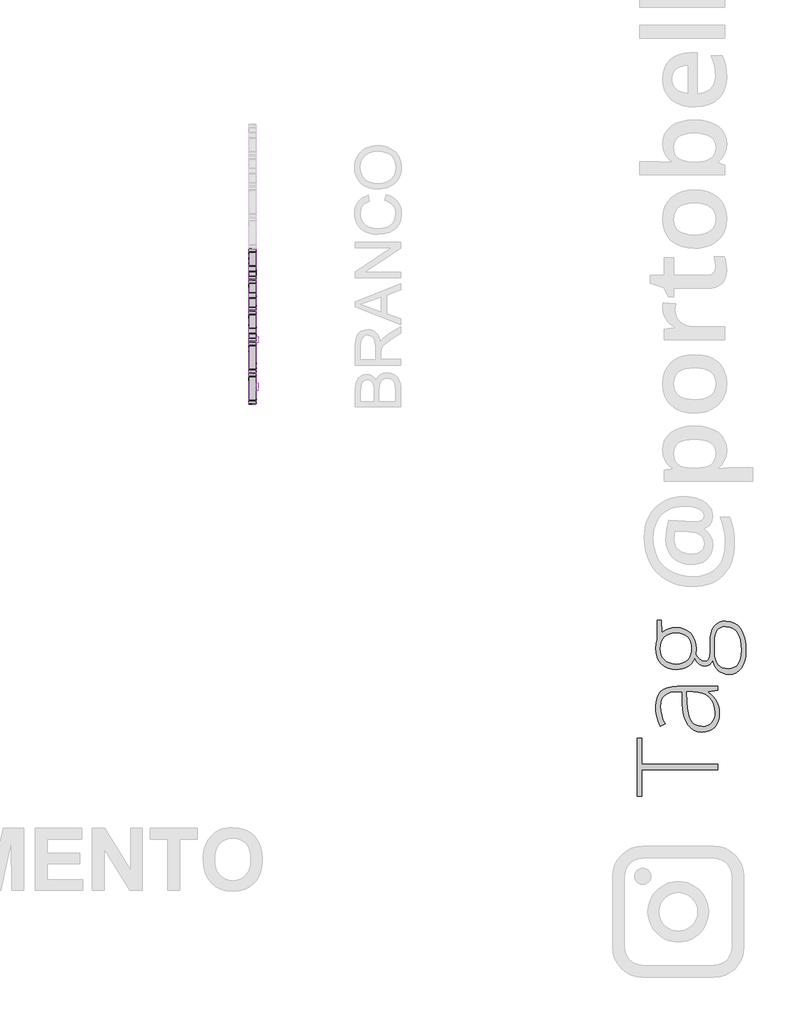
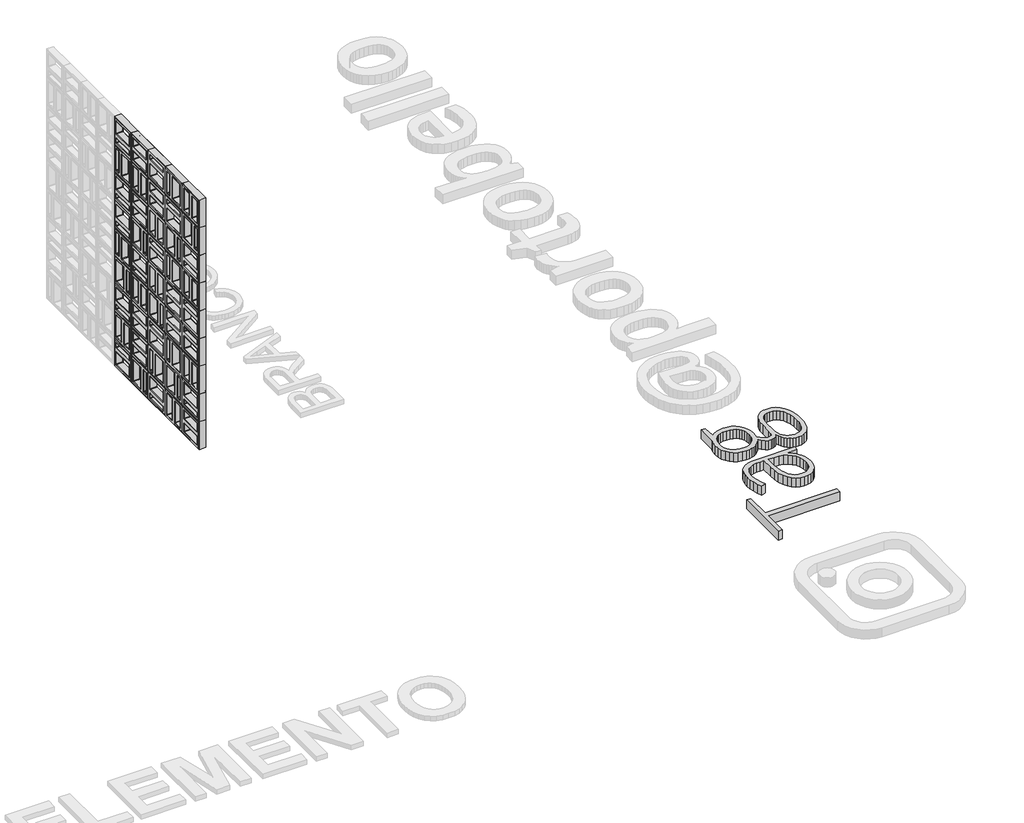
# One storey, part 5 of 8: 48 proxies.
"""IFC4 building model written with IfcOpenShell, lengths in millimetres."""

from ifc_helpers import new_model, si_unit, frame, origin, origin_with_axes, place, context, project, spatial, polyline, outline, extrude, transform, mapped, element, save
from components import plate_08ec880d, generic_models_842a660e, generic_models_726e0611, generic_models_d4af8894, generic_models_55a6a26f, sim_branco_8a5b93f5, sim_branco_d7bac734

model = new_model("IFC4")

# Units and contexts
model_context = context("Model", 3, world=origin())
ifc_project = project(units=[si_unit("LENGTHUNIT", "METRE", prefix="MILLI")], contexts=[model_context])

# Site, building, storey
site = spatial("IfcSite", under=ifc_project)
building = spatial("IfcBuilding", under=site)
storey = spatial("IfcBuildingStorey", under=building, Name="PORTOBELLO - SHOWROOM", Elevation=0.0)

# Proxies
placement = place(None, origin())
plate_shape = plate_08ec880d(model_context)
element("IfcBuildingElementProxy", 1, Name="PORTOBELLO - ELEMENTO ASSIM BRANCO 30X30 (COBOGO) : ASSIM BRANCO", ObjectType="PORTOBELLO - ELEMENTO ASSIM BRANCO 30X30 (COBOGO) : ASSIM BRANCO", at=placement, inside=storey, context=model_context, shape_type="MappedRepresentation", body=[
    mapped(plate_shape, transform((152562.9354422, 4094.9733076, 308.0), x_axis=(0.0, 1.0, 0.0), y_axis=(-1.0, 0.0, 0.0), z_axis=(0.0, 0.0, 1.0))),
])
element("IfcBuildingElementProxy", 2, Name="PORTOBELLO - ELEMENTO ASSIM BRANCO 30X30 (COBOGO) : ASSIM BRANCO", ObjectType="PORTOBELLO - ELEMENTO ASSIM BRANCO 30X30 (COBOGO) : ASSIM BRANCO", at=placement, inside=storey, context=model_context, shape_type="MappedRepresentation", body=[
    mapped(plate_shape, transform((152562.9354422, 3786.9733076, 616.0), x_axis=(0.0, 1.0, 0.0), y_axis=(-1.0, 0.0, 0.0), z_axis=(0.0, 0.0, 1.0))),
])
element("IfcBuildingElementProxy", 3, Name="PORTOBELLO - ELEMENTO ASSIM BRANCO 30X30 (COBOGO) : ASSIM BRANCO", ObjectType="PORTOBELLO - ELEMENTO ASSIM BRANCO 30X30 (COBOGO) : ASSIM BRANCO", at=placement, inside=storey, context=model_context, shape_type="MappedRepresentation", body=[
    mapped(plate_shape, transform((152562.9354422, 4710.9733076, 1232.0), x_axis=(0.0, 1.0, 0.0), y_axis=(-1.0, 0.0, 0.0), z_axis=(0.0, 0.0, 1.0))),
])
element("IfcBuildingElementProxy", 4, Name="PORTOBELLO - ELEMENTO ASSIM BRANCO 30X30 (COBOGO) : ASSIM BRANCO", ObjectType="PORTOBELLO - ELEMENTO ASSIM BRANCO 30X30 (COBOGO) : ASSIM BRANCO", at=placement, inside=storey, context=model_context, shape_type="MappedRepresentation", body=[
    mapped(plate_shape, transform((152562.9354422, 3786.9733076, 1540.0), x_axis=(0.0, 1.0, 0.0), y_axis=(-1.0, 0.0, 0.0), z_axis=(0.0, 0.0, 1.0))),
])
element("IfcBuildingElementProxy", 5, Name="PORTOBELLO - ELEMENTO ASSIM BRANCO 30X30 (COBOGO) : ASSIM BRANCO", ObjectType="PORTOBELLO - ELEMENTO ASSIM BRANCO 30X30 (COBOGO) : ASSIM BRANCO", at=placement, inside=storey, context=model_context, shape_type="MappedRepresentation", body=[
    mapped(plate_shape, transform((152562.9354422, 4710.9733076, 2156.0), x_axis=(0.0, 1.0, 0.0), y_axis=(-1.0, 0.0, 0.0), z_axis=(0.0, 0.0, 1.0))),
])
element("IfcBuildingElementProxy", 6, Name="PORTOBELLO - ELEMENTO ASSIM BRANCO 30X30 (COBOGO) : ASSIM BRANCO", ObjectType="PORTOBELLO - ELEMENTO ASSIM BRANCO 30X30 (COBOGO) : ASSIM BRANCO", at=placement, inside=storey, context=model_context, shape_type="MappedRepresentation", body=[
    mapped(plate_shape, transform((152562.9354422, 3786.9733076, 2464.0), x_axis=(0.0, 1.0, 0.0), y_axis=(-1.0, 0.0, 0.0), z_axis=(0.0, 0.0, 1.0))),
])
generic_models_shape = generic_models_842a660e(model_context)
element("IfcBuildingElementProxy", 7, Name="PORTOBELLO - ELEMENTO ASSIM BRANCO 30X30 (COBOGO) : ASSIM BRANCO", ObjectType="PORTOBELLO - ELEMENTO ASSIM BRANCO 30X30 (COBOGO) : ASSIM BRANCO", at=placement, inside=storey, context=model_context, shape_type="MappedRepresentation", body=[
    mapped(generic_models_shape, transform((152562.9354422, 3786.9733076, 308.0), x_axis=(0.0, -1.0, 0.0), y_axis=(1.0, 0.0, 0.0), z_axis=(0.0, 0.0, 1.0))),
])
generic_models_2_shape = generic_models_726e0611(model_context)
element("IfcBuildingElementProxy", 8, Name="PORTOBELLO - ELEMENTO ASSIM BRANCO 30X30 (COBOGO) : ASSIM BRANCO", ObjectType="PORTOBELLO - ELEMENTO ASSIM BRANCO 30X30 (COBOGO) : ASSIM BRANCO", at=placement, inside=storey, context=model_context, shape_type="MappedRepresentation", body=[
    mapped(generic_models_2_shape, transform((152562.9354422, 4710.9733076, 0.0), x_axis=(0.0, 1.0, 0.0), y_axis=(-1.0, 0.0, 0.0), z_axis=(0.0, 0.0, 1.0))),
])
element("IfcBuildingElementProxy", 9, Name="PORTOBELLO - ELEMENTO ASSIM BRANCO 30X30 (COBOGO) : ASSIM BRANCO", ObjectType="PORTOBELLO - ELEMENTO ASSIM BRANCO 30X30 (COBOGO) : ASSIM BRANCO", at=placement, inside=storey, context=model_context, shape_type="MappedRepresentation", body=[
    mapped(generic_models_2_shape, transform((152562.9354422, 4094.9733076, 616.0), x_axis=(0.0, 1.0, 0.0), y_axis=(-1.0, 0.0, 0.0), z_axis=(0.0, 0.0, 1.0))),
])
element("IfcBuildingElementProxy", 10, Name="PORTOBELLO - ELEMENTO ASSIM BRANCO 30X30 (COBOGO) : ASSIM BRANCO", ObjectType="PORTOBELLO - ELEMENTO ASSIM BRANCO 30X30 (COBOGO) : ASSIM BRANCO", at=placement, inside=storey, context=model_context, shape_type="MappedRepresentation", body=[
    mapped(generic_models_2_shape, transform((152562.9354422, 3478.9733076, 924.0), x_axis=(0.0, 1.0, 0.0), y_axis=(-1.0, 0.0, 0.0), z_axis=(0.0, 0.0, 1.0))),
])
element("IfcBuildingElementProxy", 11, Name="PORTOBELLO - ELEMENTO ASSIM BRANCO 30X30 (COBOGO) : ASSIM BRANCO", ObjectType="PORTOBELLO - ELEMENTO ASSIM BRANCO 30X30 (COBOGO) : ASSIM BRANCO", at=placement, inside=storey, context=model_context, shape_type="MappedRepresentation", body=[
    mapped(generic_models_2_shape, transform((152562.9354422, 3478.9733076, 1232.0), x_axis=(0.0, 1.0, 0.0), y_axis=(-1.0, 0.0, 0.0), z_axis=(0.0, 0.0, 1.0))),
])
element("IfcBuildingElementProxy", 12, Name="PORTOBELLO - ELEMENTO ASSIM BRANCO 30X30 (COBOGO) : ASSIM BRANCO", ObjectType="PORTOBELLO - ELEMENTO ASSIM BRANCO 30X30 (COBOGO) : ASSIM BRANCO", at=placement, inside=storey, context=model_context, shape_type="MappedRepresentation", body=[
    mapped(generic_models_2_shape, transform((152562.9354422, 4094.9733076, 1540.0), x_axis=(0.0, 1.0, 0.0), y_axis=(-1.0, 0.0, 0.0), z_axis=(0.0, 0.0, 1.0))),
])
element("IfcBuildingElementProxy", 13, Name="PORTOBELLO - ELEMENTO ASSIM BRANCO 30X30 (COBOGO) : ASSIM BRANCO", ObjectType="PORTOBELLO - ELEMENTO ASSIM BRANCO 30X30 (COBOGO) : ASSIM BRANCO", at=placement, inside=storey, context=model_context, shape_type="MappedRepresentation", body=[
    mapped(generic_models_2_shape, transform((152562.9354422, 3786.9733076, 2156.0), x_axis=(0.0, 1.0, 0.0), y_axis=(-1.0, 0.0, 0.0), z_axis=(0.0, 0.0, 1.0))),
])
element("IfcBuildingElementProxy", 14, Name="PORTOBELLO - ELEMENTO ASSIM BRANCO 30X30 (COBOGO) : ASSIM BRANCO", ObjectType="PORTOBELLO - ELEMENTO ASSIM BRANCO 30X30 (COBOGO) : ASSIM BRANCO", at=placement, inside=storey, context=model_context, shape_type="MappedRepresentation", body=[
    mapped(generic_models_2_shape, transform((152562.9354422, 4094.9733076, 2464.0), x_axis=(0.0, 1.0, 0.0), y_axis=(-1.0, 0.0, 0.0), z_axis=(0.0, 0.0, 1.0))),
])
generic_models_3_shape = generic_models_d4af8894(model_context)
element("IfcBuildingElementProxy", 15, Name="PORTOBELLO - ELEMENTO ASSIM BRANCO 30X30 (COBOGO) : ASSIM BRANCO", ObjectType="PORTOBELLO - ELEMENTO ASSIM BRANCO 30X30 (COBOGO) : ASSIM BRANCO", at=placement, inside=storey, context=model_context, shape_type="MappedRepresentation", body=[
    mapped(generic_models_3_shape, transform((152562.9354422, 4094.9733076, 0.0), x_axis=(0.0, 1.0, 0.0), y_axis=(-1.0, 0.0, 0.0), z_axis=(0.0, 0.0, 1.0))),
])
element("IfcBuildingElementProxy", 16, Name="PORTOBELLO - ELEMENTO ASSIM BRANCO 30X30 (COBOGO) : ASSIM BRANCO", ObjectType="PORTOBELLO - ELEMENTO ASSIM BRANCO 30X30 (COBOGO) : ASSIM BRANCO", at=placement, inside=storey, context=model_context, shape_type="MappedRepresentation", body=[
    mapped(generic_models_3_shape, transform((152562.9354422, 3478.9733076, 308.0), x_axis=(0.0, 1.0, 0.0), y_axis=(-1.0, 0.0, 0.0), z_axis=(0.0, 0.0, 1.0))),
])
element("IfcBuildingElementProxy", 17, Name="PORTOBELLO - ELEMENTO ASSIM BRANCO 30X30 (COBOGO) : ASSIM BRANCO", ObjectType="PORTOBELLO - ELEMENTO ASSIM BRANCO 30X30 (COBOGO) : ASSIM BRANCO", at=placement, inside=storey, context=model_context, shape_type="MappedRepresentation", body=[
    mapped(generic_models_3_shape, transform((152562.9354422, 4710.9733076, 616.0), x_axis=(0.0, 1.0, 0.0), y_axis=(-1.0, 0.0, 0.0), z_axis=(0.0, 0.0, 1.0))),
])
element("IfcBuildingElementProxy", 18, Name="PORTOBELLO - ELEMENTO ASSIM BRANCO 30X30 (COBOGO) : ASSIM BRANCO", ObjectType="PORTOBELLO - ELEMENTO ASSIM BRANCO 30X30 (COBOGO) : ASSIM BRANCO", at=placement, inside=storey, context=model_context, shape_type="MappedRepresentation", body=[
    mapped(generic_models_3_shape, transform((152562.9354422, 4402.9733076, 1232.0), x_axis=(0.0, 1.0, 0.0), y_axis=(-1.0, 0.0, 0.0), z_axis=(0.0, 0.0, 1.0))),
])
element("IfcBuildingElementProxy", 19, Name="PORTOBELLO - ELEMENTO ASSIM BRANCO 30X30 (COBOGO) : ASSIM BRANCO", ObjectType="PORTOBELLO - ELEMENTO ASSIM BRANCO 30X30 (COBOGO) : ASSIM BRANCO", at=placement, inside=storey, context=model_context, shape_type="MappedRepresentation", body=[
    mapped(generic_models_3_shape, transform((152562.9354422, 4710.9733076, 1540.0), x_axis=(0.0, 1.0, 0.0), y_axis=(-1.0, 0.0, 0.0), z_axis=(0.0, 0.0, 1.0))),
])
element("IfcBuildingElementProxy", 20, Name="PORTOBELLO - ELEMENTO ASSIM BRANCO 30X30 (COBOGO) : ASSIM BRANCO", ObjectType="PORTOBELLO - ELEMENTO ASSIM BRANCO 30X30 (COBOGO) : ASSIM BRANCO", at=placement, inside=storey, context=model_context, shape_type="MappedRepresentation", body=[
    mapped(generic_models_3_shape, transform((152562.9354422, 3478.9733076, 1848.0), x_axis=(0.0, 1.0, 0.0), y_axis=(-1.0, 0.0, 0.0), z_axis=(0.0, 0.0, 1.0))),
])
element("IfcBuildingElementProxy", 21, Name="PORTOBELLO - ELEMENTO ASSIM BRANCO 30X30 (COBOGO) : ASSIM BRANCO", ObjectType="PORTOBELLO - ELEMENTO ASSIM BRANCO 30X30 (COBOGO) : ASSIM BRANCO", at=placement, inside=storey, context=model_context, shape_type="MappedRepresentation", body=[
    mapped(generic_models_3_shape, transform((152562.9354422, 4710.9733076, 1848.0), x_axis=(0.0, 1.0, 0.0), y_axis=(-1.0, 0.0, 0.0), z_axis=(0.0, 0.0, 1.0))),
])
element("IfcBuildingElementProxy", 22, Name="PORTOBELLO - ELEMENTO ASSIM BRANCO 30X30 (COBOGO) : ASSIM BRANCO", ObjectType="PORTOBELLO - ELEMENTO ASSIM BRANCO 30X30 (COBOGO) : ASSIM BRANCO", at=placement, inside=storey, context=model_context, shape_type="MappedRepresentation", body=[
    mapped(generic_models_3_shape, transform((152562.9354422, 4710.9733076, 2464.0), x_axis=(0.0, 1.0, 0.0), y_axis=(-1.0, 0.0, 0.0), z_axis=(0.0, 0.0, 1.0))),
])
generic_models_4_shape = generic_models_55a6a26f(model_context)
element("IfcBuildingElementProxy", 23, Name="PORTOBELLO - ELEMENTO ASSIM BRANCO 30X30 (COBOGO) : ASSIM BRANCO", ObjectType="PORTOBELLO - ELEMENTO ASSIM BRANCO 30X30 (COBOGO) : ASSIM BRANCO", at=placement, inside=storey, context=model_context, shape_type="MappedRepresentation", body=[
    mapped(generic_models_4_shape, transform((152562.9354422, 4402.9733076, 0.0), x_axis=(0.0, 1.0, 0.0), y_axis=(-1.0, 0.0, 0.0), z_axis=(0.0, 0.0, 1.0))),
])
element("IfcBuildingElementProxy", 24, Name="PORTOBELLO - ELEMENTO ASSIM BRANCO 30X30 (COBOGO) : ASSIM BRANCO", ObjectType="PORTOBELLO - ELEMENTO ASSIM BRANCO 30X30 (COBOGO) : ASSIM BRANCO", at=placement, inside=storey, context=model_context, shape_type="MappedRepresentation", body=[
    mapped(generic_models_4_shape, transform((152562.9354422, 4094.9733076, 924.0), x_axis=(0.0, 1.0, 0.0), y_axis=(-1.0, 0.0, 0.0), z_axis=(0.0, 0.0, 1.0))),
])
element("IfcBuildingElementProxy", 25, Name="PORTOBELLO - ELEMENTO ASSIM BRANCO 30X30 (COBOGO) : ASSIM BRANCO", ObjectType="PORTOBELLO - ELEMENTO ASSIM BRANCO 30X30 (COBOGO) : ASSIM BRANCO", at=placement, inside=storey, context=model_context, shape_type="MappedRepresentation", body=[
    mapped(generic_models_4_shape, transform((152562.9354422, 4710.9733076, 924.0), x_axis=(0.0, 1.0, 0.0), y_axis=(-1.0, 0.0, 0.0), z_axis=(0.0, 0.0, 1.0))),
])
element("IfcBuildingElementProxy", 26, Name="PORTOBELLO - ELEMENTO ASSIM BRANCO 30X30 (COBOGO) : ASSIM BRANCO", ObjectType="PORTOBELLO - ELEMENTO ASSIM BRANCO 30X30 (COBOGO) : ASSIM BRANCO", at=placement, inside=storey, context=model_context, shape_type="MappedRepresentation", body=[
    mapped(generic_models_4_shape, transform((152562.9354422, 4402.9733076, 1540.0), x_axis=(0.0, 1.0, 0.0), y_axis=(-1.0, 0.0, 0.0), z_axis=(0.0, 0.0, 1.0))),
])
element("IfcBuildingElementProxy", 27, Name="PORTOBELLO - ELEMENTO ASSIM BRANCO 30X30 (COBOGO) : ASSIM BRANCO", ObjectType="PORTOBELLO - ELEMENTO ASSIM BRANCO 30X30 (COBOGO) : ASSIM BRANCO", at=placement, inside=storey, context=model_context, shape_type="MappedRepresentation", body=[
    mapped(generic_models_4_shape, transform((152562.9354422, 3786.9733076, 1848.0), x_axis=(0.0, 1.0, 0.0), y_axis=(-1.0, 0.0, 0.0), z_axis=(0.0, 0.0, 1.0))),
])
element("IfcBuildingElementProxy", 28, Name="PORTOBELLO - ELEMENTO ASSIM BRANCO 30X30 (COBOGO) : ASSIM BRANCO", ObjectType="PORTOBELLO - ELEMENTO ASSIM BRANCO 30X30 (COBOGO) : ASSIM BRANCO", at=placement, inside=storey, context=model_context, shape_type="MappedRepresentation", body=[
    mapped(generic_models_4_shape, transform((152562.9354422, 3478.9733076, 2156.0), x_axis=(0.0, 1.0, 0.0), y_axis=(-1.0, 0.0, 0.0), z_axis=(0.0, 0.0, 1.0))),
])
element("IfcBuildingElementProxy", 29, Name="10mm Arial", ObjectType="10mm Arial", at=placement, inside=storey, context=model_context, shape_type="SweptSolid", body=[
    extrude(outline(polyline([(3458.7110747, 2624.8028254), (3458.7110747, 2725.2591356), (3497.0443786, 2725.2591356), (3515.8186231, 2722.3038169), (3526.9041339, 2713.2171316), (3530.9140476, 2700.3657872), (3527.541796, 2688.6303516), (3517.3514647, 2679.73987), (3529.7245625, 2670.3711419), (3534.0533073, 2654.7484198), (3531.0979886, 2641.2471506), (3523.7771369, 2631.6331678), (3512.8510417, 2626.5318708), (3496.750073, 2624.8028254), (3458.7110747, 2624.8028254)]), holes=[polyline([(3471.2681135, 2684.4487596), (3494.1994245, 2684.4487596), (3507.5903291, 2685.5278801), (3515.6469448, 2690.175456), (3518.3570089, 2698.354699), (3515.8308858, 2706.5462047), (3508.5958733, 2711.3899843), (3492.4581164, 2712.7020968), (3471.2681135, 2712.7020968), (3471.2681135, 2684.4487596)]), polyline([(3471.2681135, 2637.3598642), (3497.0198531, 2637.3598642), (3506.3395304, 2637.8503735), (3514.2244678, 2640.584963), (3519.4483921, 2646.1645066), (3521.4962686, 2654.6257925), (3519.0927729, 2664.3869281), (3511.3059373, 2670.2117264), (3495.7935798, 2671.8917208), (3471.2681135, 2671.8917208), (3471.2681135, 2637.3598642)])]), frame((152600.4354422, 0.0, 0.0), z_axis=(1.0, 0.0, 0.0), x_axis=(0.0, 1.0, 0.0)), (0.0, 0.0, 1.0), 20.0),
    extrude(outline(polyline([(3549.7496058, 2624.8028254), (3549.7496058, 2698.5754282), (3560.7370147, 2698.5754282), (3560.7370147, 2687.6615957), (3568.536113, 2697.7170369), (3576.3842622, 2700.145058), (3588.9903519, 2696.2700343), (3584.7964972, 2685.0128453), (3575.9673293, 2687.5880193), (3568.8672068, 2685.1109472), (3564.3422583, 2678.2438166), (3562.3066446, 2663.5775877), (3562.3066446, 2624.8028254), (3549.7496058, 2624.8028254)])), frame((152600.4354422, 0.0, 0.0), z_axis=(1.0, 0.0, 0.0), x_axis=(0.0, 1.0, 0.0)), (0.0, 0.0, 1.0), 20.0),
    extrude(outline(polyline([(3643.9273966, 2634.2206045), (3631.7505025, 2625.7102677), (3618.2982842, 2623.2331956), (3607.8044503, 2624.7231176), (3600.0636, 2629.1928839), (3595.2903311, 2635.9803067), (3593.6992415, 2644.4231985), (3596.1027372, 2654.3560124), (3602.4180448, 2661.5664995), (3611.2104245, 2665.6867778), (3622.075206, 2667.5752387), (3643.8538202, 2671.8917208), (3643.9273966, 2674.687624), (3640.4693058, 2683.9582502), (3626.5878919, 2687.5880193), (3613.8837003, 2685.1722608), (3607.8259101, 2676.6006103), (3595.2688713, 2678.1702402), (3600.7012621, 2690.4329734), (3611.6396201, 2697.618935), (3628.2065726, 2700.145058), (3643.4246245, 2697.9132406), (3652.0208004, 2692.3091715), (3655.8712987, 2683.786572), (3656.4844353, 2672.7991631), (3656.4844353, 2657.176441), (3657.1220974, 2635.3610387), (3659.623695, 2624.8028254), (3647.0666562, 2624.8028254), (3643.9273966, 2634.2206045)]), holes=[polyline([(3643.9273966, 2659.334682), (3623.6693614, 2655.4841838), (3612.8658934, 2653.4485701), (3607.9730629, 2650.1376321), (3606.2562802, 2645.3061153), (3609.9964139, 2638.5125611), (3620.9715601, 2635.7902343), (3633.6757516, 2638.794604), (3641.8672574, 2646.0664047), (3643.8538202, 2655.7784894), (3643.9273966, 2659.334682)])]), frame((152600.4354422, 0.0, 0.0), z_axis=(1.0, 0.0, 0.0), x_axis=(0.0, 1.0, 0.0)), (0.0, 0.0, 1.0), 20.0),
    extrude(outline(polyline([(3673.7503636, 2624.8028254), (3673.7503636, 2698.5754282), (3686.3074024, 2698.5754282), (3686.3074024, 2688.2747323), (3695.9091225, 2697.1774766), (3709.0179842, 2700.145058), (3720.8760472, 2697.7538251), (3728.9694511, 2691.4753057), (3732.7341102, 2682.2414676), (3733.3962978, 2670.1013618), (3733.3962978, 2624.8028254), (3720.839259, 2624.8028254), (3720.839259, 2668.4091046), (3719.3922565, 2679.5191408), (3714.2786968, 2685.39299), (3705.6579953, 2687.5880193), (3692.0340988, 2682.6584005), (3687.7390765, 2675.5153584), (3686.3074024, 2663.9454697), (3686.3074024, 2624.8028254), (3673.7503636, 2624.8028254)])), frame((152600.4354422, 0.0, 0.0), z_axis=(1.0, 0.0, 0.0), x_axis=(0.0, 1.0, 0.0)), (0.0, 0.0, 1.0), 20.0),
    extrude(outline(polyline([(3797.7511215, 2651.4865328), (3810.3081602, 2649.916903), (3806.8071499, 2638.7486187), (3800.2281936, 2630.3087926), (3791.1905592, 2625.0020948), (3780.3135149, 2623.2331956), (3766.9563328, 2625.7010706), (3756.5115498, 2633.1046958), (3749.7701123, 2645.1191086), (3747.5229664, 2661.4193467), (3751.3612019, 2682.2782558), (3763.0598493, 2695.6814232), (3780.1418366, 2700.145058), (3790.7521665, 2698.6122164), (3799.2349122, 2694.0136914), (3805.3202935, 2686.5947379), (3808.7385304, 2676.6006103), (3796.1814916, 2675.0309805), (3790.3566934, 2684.4364968), (3780.2399385, 2687.5880193), (3772.1250748, 2686.0367835), (3765.6840742, 2681.3830763), (3761.4810224, 2673.3755115), (3760.0800052, 2661.7627032), (3761.4503656, 2649.993545), (3765.5614469, 2641.9583891), (3771.8859515, 2637.332273), (3779.896582, 2635.7902343), (3791.7301195, 2639.6407326), (3797.7511215, 2651.4865328)])), frame((152600.4354422, 0.0, 0.0), z_axis=(1.0, 0.0, 0.0), x_axis=(0.0, 1.0, 0.0)), (0.0, 0.0, 1.0), 20.0),
    extrude(outline(polyline([(3818.1563095, 2661.6891268), (3820.8725049, 2679.4762213), (3829.0210911, 2691.9780777), (3839.088795, 2698.103313), (3851.1430617, 2700.145058), (3864.3346969, 2697.6587889), (3874.8714504, 2690.1999814), (3881.7784349, 2678.3572469), (3884.080763, 2662.7191964), (3880.0095356, 2640.3764965), (3868.1514726, 2627.7336186), (3851.1430617, 2623.2331956), (3837.792011, 2625.7102677), (3827.2675202, 2633.141484), (3820.4341122, 2645.2325389), (3818.1563095, 2661.6891268)]), holes=[polyline([(3830.7133482, 2661.7136523), (3832.1664821, 2650.3491643), (3836.5258838, 2642.2526947), (3843.086446, 2637.4058494), (3851.1430617, 2635.7902343), (3859.1628892, 2637.4150465), (3865.7111887, 2642.2894829), (3870.0705904, 2650.4932514), (3871.5237242, 2662.1060597), (3870.0613933, 2673.1394539), (3865.6744005, 2681.1255589), (3859.116904, 2685.9724042), (3851.1430617, 2687.5880193), (3843.086446, 2685.9785355), (3836.5258838, 2681.1500843), (3832.1664821, 2673.0720089), (3830.7133482, 2661.7136523)])]), frame((152600.4354422, 0.0, 0.0), z_axis=(1.0, 0.0, 0.0), x_axis=(0.0, 1.0, 0.0)), (0.0, 0.0, 1.0), 20.0),
])
element("IfcBuildingElementProxy", 30, Name="10mm Arial Narrow", ObjectType="10mm Arial Narrow", at=placement, inside=storey, context=model_context, shape_type="SweptSolid", body=[
    extrude(outline(polyline([(3930.8461338, 2624.8028254), (3930.8461338, 2725.5214292), (3962.1430185, 2725.5214292), (3978.43872, 2723.6431084), (3989.9117062, 2714.1626653), (3994.2013846, 2697.1435564), (3992.4150762, 2685.0677309), (3987.056151, 2675.4413371), (3977.3123622, 2669.1400787), (3962.3714629, 2667.0396592), (3940.5930955, 2667.0396592), (3940.5930955, 2624.8028254), (3930.8461338, 2624.8028254)]), holes=[polyline([(3940.5930955, 2678.4111145), (3963.5644504, 2678.4111145), (3979.4286458, 2682.9419287), (3984.4544229, 2696.6105195), (3981.9796085, 2706.7762959), (3976.0019796, 2712.5762457), (3963.336006, 2714.1499739), (3940.5930955, 2714.1499739), (3940.5930955, 2678.4111145)])]), frame((152600.4354422, 0.0, 0.0), z_axis=(1.0, 0.0, 0.0), x_axis=(0.0, 1.0, 0.0)), (0.0, 0.0, 1.0), 20.0),
    extrude(outline(polyline([(4002.3238526, 2661.3539316), (4004.2783215, 2677.9447072), (4010.1417281, 2689.896792), (4019.0002948, 2697.1213466), (4029.940244, 2699.5295314), (4040.7532796, 2697.1213466), (4049.637229, 2689.896792), (4055.5767837, 2678.1350775), (4057.5566353, 2662.115413), (4055.611685, 2644.9535264), (4049.7768339, 2632.8110713), (4040.9277857, 2625.5865167), (4029.940244, 2623.1783318), (4019.0796158, 2625.5928623), (4010.2051849, 2632.836454), (4004.2941857, 2644.7948845), (4002.3238526, 2661.3539316)]), holes=[polyline([(4012.0708143, 2661.3793143), (4013.3748511, 2648.8275629), (4017.2869617, 2639.9563049), (4023.1281585, 2634.6830463), (4030.2194538, 2632.9252935), (4036.939527, 2634.6989105), (4042.6316003, 2640.0197616), (4046.5151553, 2648.9068839), (4047.8096737, 2661.3793143), (4046.5056368, 2673.8929917), (4042.5935262, 2682.7515584), (4036.7523295, 2688.0248169), (4029.6610341, 2689.7825698), (4022.8933684, 2688.0152984), (4017.2108136, 2682.7134843), (4013.3558141, 2673.8453991), (4012.0708143, 2661.3793143)])]), frame((152600.4354422, 0.0, 0.0), z_axis=(1.0, 0.0, 0.0), x_axis=(0.0, 1.0, 0.0)), (0.0, 0.0, 1.0), 20.0),
    extrude(outline(polyline([(4129.0343541, 2632.9252935), (4130.6588477, 2623.1783318), (4123.2978611, 2623.1783318), (4115.0230968, 2625.2977883), (4110.7080356, 2631.0977381), (4109.5404308, 2645.7435633), (4109.5404308, 2688.1580762), (4101.4179628, 2688.1580762), (4101.4179628, 2691.4070634), (4099.7934692, 2686.5335826), (4092.2294208, 2688.1580762), (4086.1502611, 2685.835558), (4082.2793974, 2679.3502749), (4080.2995459, 2663.9429683), (4080.2995459, 2624.8028254), (4070.5525842, 2624.8028254), (4070.5525842, 2697.9050378), (4080.2995459, 2697.9050378), (4080.2995459, 2688.2088416), (4086.5436932, 2697.2958527), (4092.9401368, 2699.5295314), (4101.4179628, 2697.9050378), (4109.5404308, 2697.9050378), (4109.5404308, 2714.1499739), (4119.2873925, 2722.2724419), (4119.2873925, 2697.9050378), (4129.0343541, 2697.9050378), (4129.0343541, 2688.1580762), (4119.2873925, 2688.1580762), (4119.2873925, 2643.5098846), (4120.1504047, 2635.5143301), (4124.7700584, 2632.9252935), (4129.0343541, 2632.9252935)])), frame((152600.4354422, 0.0, 0.0), z_axis=(1.0, 0.0, 0.0), x_axis=(0.0, 1.0, 0.0)), (0.0, 0.0, 1.0), 20.0),
    extrude(outline(polyline([(4135.5323286, 2661.3539316), (4137.4867974, 2677.9447072), (4143.3502041, 2689.896792), (4152.2087708, 2697.1213466), (4163.1487199, 2699.5295314), (4173.9617555, 2697.1213466), (4182.8457049, 2689.896792), (4188.7852597, 2678.1350775), (4190.7651113, 2662.115413), (4188.8201609, 2644.9535264), (4182.9853098, 2632.8110713), (4174.1362616, 2625.5865167), (4163.1487199, 2623.1783318), (4152.2880917, 2625.5928623), (4143.4136608, 2632.836454), (4137.5026616, 2644.7948845), (4135.5323286, 2661.3539316)]), holes=[polyline([(4145.2792902, 2661.3793143), (4146.5833271, 2648.8275629), (4150.4954377, 2639.9563049), (4156.3366344, 2634.6830463), (4163.4279298, 2632.9252935), (4170.1480029, 2634.6989105), (4175.8400762, 2640.0197616), (4179.7236313, 2648.9068839), (4181.0181496, 2661.3793143), (4179.7141128, 2673.8929917), (4175.8020022, 2682.7515584), (4169.9608054, 2688.0248169), (4162.8695101, 2689.7825698), (4156.1018443, 2688.0152984), (4150.4192895, 2682.7134843), (4146.56429, 2673.8453991), (4145.2792902, 2661.3793143)])]), frame((152600.4354422, 0.0, 0.0), z_axis=(1.0, 0.0, 0.0), x_axis=(0.0, 1.0, 0.0)), (0.0, 0.0, 1.0), 20.0),
    extrude(outline(polyline([(4213.5080218, 2624.8028254), (4203.7610601, 2624.8028254), (4203.7610601, 2725.5214292), (4213.5080218, 2725.5214292), (4213.5080218, 2690.112545), (4220.9070825, 2697.1943219), (4230.1083159, 2699.5295314), (4242.9900425, 2695.3286925), (4252.267424, 2682.5992621), (4255.7448556, 2661.9123513), (4253.8125966, 2645.4580078), (4248.0158196, 2633.2552687), (4239.6426973, 2625.697566), (4229.9814023, 2623.1783318), (4220.640564, 2625.7927512), (4213.5080218, 2633.5598613), (4213.5080218, 2624.8028254)]), holes=[polyline([(4213.5080218, 2661.9123513), (4215.5894042, 2644.6647981), (4221.4781936, 2635.9331449), (4229.9306369, 2632.9252935), (4235.8733645, 2634.7147747), (4241.1117218, 2640.0832184), (4245.997894, 2661.5062279), (4241.2894008, 2682.9419287), (4236.0446978, 2688.0724095), (4229.7275752, 2689.7825698), (4223.7499463, 2687.9930885), (4218.4576508, 2682.6246448), (4213.5080218, 2661.9123513)])]), frame((152600.4354422, 0.0, 0.0), z_axis=(1.0, 0.0, 0.0), x_axis=(0.0, 1.0, 0.0)), (0.0, 0.0, 1.0), 20.0),
    extrude(outline(polyline([(4307.7286511, 2647.5457359), (4317.4756128, 2645.9212423), (4313.7760824, 2636.0346758), (4307.9570955, 2628.9148249), (4300.2534422, 2624.6124551), (4290.8999126, 2623.1783318), (4279.3063586, 2625.5928623), (4270.1622364, 2632.836454), (4264.2226816, 2644.6425882), (4262.2428301, 2660.7447465), (4264.2322002, 2677.4116702), (4270.2003105, 2689.5921994), (4279.2143463, 2697.0451984), (4290.341493, 2699.5295314), (4301.0244421, 2697.1308651), (4309.7719595, 2689.934866), (4315.6068105, 2678.1953614), (4317.5517609, 2662.1661784), (4317.4756128, 2658.9171912), (4271.9897917, 2658.9171912), (4277.9928033, 2639.4740333), (4283.9228395, 2634.5624784), (4291.0268262, 2632.9252935), (4301.205294, 2636.5804041), (4307.7286511, 2647.5457359)]), holes=[polyline([(4272.6497422, 2668.6641529), (4307.7286511, 2668.6641529), (4303.4643554, 2682.9292374), (4297.6390228, 2688.0692367), (4290.4176411, 2689.7825698), (4278.2085563, 2684.0714594), (4272.6497422, 2668.6641529)])]), frame((152600.4354422, 0.0, 0.0), z_axis=(1.0, 0.0, 0.0), x_axis=(0.0, 1.0, 0.0)), (0.0, 0.0, 1.0), 20.0),
    extrude(outline(polyline([(152620.4354422, 4340.2185233), (152620.4354422, 4330.4715616), (152600.4354422, 4330.4715616), (152600.4354422, 4340.2185233), (152620.4354422, 4340.2185233)])), frame((0.0, 0.0, 2624.8028254), z_axis=(0.0, 0.0, 1.0), x_axis=(1.0, 0.0, 0.0)), (0.0, 0.0, 1.0), 100.7186038),
    extrude(outline(polyline([(152620.4354422, 4366.210421), (152620.4354422, 4356.4634594), (152600.4354422, 4356.4634594), (152600.4354422, 4366.210421), (152620.4354422, 4366.210421)])), frame((0.0, 0.0, 2624.8028254), z_axis=(0.0, 0.0, 1.0), x_axis=(1.0, 0.0, 0.0)), (0.0, 0.0, 1.0), 100.7186038),
    extrude(outline(polyline([(4377.5818763, 2661.3539316), (4379.5363452, 2677.9447072), (4385.3997518, 2689.896792), (4394.2583185, 2697.1213466), (4405.1982676, 2699.5295314), (4416.0113032, 2697.1213466), (4424.8952527, 2689.896792), (4430.8348074, 2678.1350775), (4432.814659, 2662.115413), (4430.8697086, 2644.9535264), (4425.0348576, 2632.8110713), (4416.1858094, 2625.5865167), (4405.1982676, 2623.1783318), (4394.3376395, 2625.5928623), (4385.4632086, 2632.836454), (4379.5522094, 2644.7948845), (4377.5818763, 2661.3539316)]), holes=[polyline([(4387.3288379, 2661.3793143), (4388.6328748, 2648.8275629), (4392.5449854, 2639.9563049), (4398.3861821, 2634.6830463), (4405.4774775, 2632.9252935), (4412.1975507, 2634.6989105), (4417.889624, 2640.0197616), (4421.773179, 2648.9068839), (4423.0676973, 2661.3793143), (4421.7636605, 2673.8929917), (4417.8515499, 2682.7515584), (4412.0103531, 2688.0248169), (4404.9190578, 2689.7825698), (4398.151392, 2688.0152984), (4392.4688373, 2682.7134843), (4388.6138378, 2673.8453991), (4387.3288379, 2661.3793143)])]), frame((152600.4354422, 0.0, 0.0), z_axis=(1.0, 0.0, 0.0), x_axis=(0.0, 1.0, 0.0)), (0.0, 0.0, 1.0), 20.0),
])
element("IfcBuildingElementProxy", 31, Name="80mm OpenSans Light", ObjectType="80mm OpenSans Light", at=placement, inside=storey, context=model_context, shape_type="SweptSolid", body=[
    extrude(outline(polyline([(157171.692649, -239.7446899), (157171.692649, -296.2308367), (156417.9030484, -296.2308367), (156417.9030484, -554.8652787), (156371.7526646, -554.8652787), (156371.7526646, 18.6493855), (156417.9030484, 18.6493855), (156417.9030484, -239.7446899), (157171.692649, -239.7446899)])), origin_with_axes(), (0.0, 0.0, 1.0), 100.0),
    extrude(outline(polyline([(157171.692649, 490.2486191), (157076.0267494, 476.5477239), (157076.0267494, 472.2211254), (157104.2022197, 449.3487429), (157127.9158853, 426.1608792), (157147.1677462, 402.6575344), (157161.9578024, 378.8387084), (157172.9470621, 353.7729808), (157180.7965333, 326.528931), (157185.506216, 297.1065591), (157187.0761102, 265.5058651), (157184.1841998, 223.6219882), (157175.5084685, 186.6656262), (157161.0489163, 154.6367792), (157140.8055432, 127.5354471), (157115.4543803, 105.9775693), (157085.6714585, 90.5790851), (157051.4567779, 81.3399946), (157012.8103384, 78.2602978), (156970.588446, 82.8497972), (156933.3391373, 96.6182955), (156901.0624122, 119.5657926), (156873.7582708, 151.6922886), (156851.8623775, 192.5020273), (156835.8103967, 241.4992527), (156825.6023284, 298.6839648), (156821.2381727, 364.0561636), (156817.8730405, 478.7110231), (156777.4914548, 478.7110231), (156736.8695024, 476.532701), (156701.5356149, 469.9977346), (156671.4897922, 459.1061238), (156646.7320343, 443.8578688), (156627.3825244, 423.7572134), (156613.561446, 398.3084015), (156605.2687989, 367.5114332), (156602.5045832, 331.3663085), (156605.3889822, 289.1669505), (156614.0421791, 246.2164469), (156628.464174, 202.5147977), (156648.6549669, 158.062003), (156601.5431169, 137.6308435), (156581.7729655, 186.9961303), (156567.6514288, 236.0609588), (156559.1785068, 284.8253291), (156556.3541995, 333.2892411), (156559.5916369, 379.67248), (156569.3039491, 419.7911648), (156585.4911361, 453.6452955), (156608.1531979, 481.2348723), (156637.6657073, 502.6350095), (156674.404237, 517.9208218), (156718.3687871, 527.0923092), (156769.5593576, 530.1494717), (157171.692649, 530.1494717), (157171.692649, 490.2486191)]), holes=[polyline([(157140.9257265, 268.390264), (157137.3577851, 314.1500521), (157126.6539607, 354.8020502), (157108.8142535, 390.3462585), (157083.8386633, 420.7826769), (157052.5234046, 445.179885), (157015.6646915, 462.6064622), (156973.2625242, 473.0624085), (156925.3169026, 476.5477239), (156864.0234242, 476.5477239), (156868.5903893, 371.0267945), (156873.4953698, 312.0167986), (156881.9607804, 262.1407329), (156893.986621, 221.3985973), (156909.5728915, 189.7903918), (156929.3505543, 166.1293064), (156953.9505717, 149.2285311), (156983.3729436, 139.0880659), (157017.61767, 135.7079109), (157045.1997353, 137.8787216), (157069.5368517, 144.3911536), (157090.6290193, 155.2452071), (157108.476238, 170.4408819), (157122.6728892, 189.5875825), (157132.8133544, 212.294713), (157138.8976335, 238.5622735), (157140.9257265, 268.390264)])]), origin_with_axes(), (0.0, 0.0, 1.0), 100.0),
    extrude(outline(polyline([(156571.7376607, 1186.3502401), (156610.1963138, 1186.3502401), (156617.8880444, 1063.0421836), (156650.0370748, 1084.7052218), (156683.7484879, 1100.1788205), (156719.0222837, 1109.4629797), (156755.8584624, 1112.5576994), (156798.4484161, 1108.9972694), (156836.8019088, 1098.3159795), (156870.9189406, 1080.5138295), (156900.7995113, 1055.5908195), (156925.0915589, 1024.658645), (156942.4430216, 988.8290014), (156952.8538991, 948.1018887), (156956.3241917, 902.4773069), (156952.9590595, 845.9911602), (156971.2569656, 817.5978577), (156992.4993622, 796.8361942), (157015.9050581, 784.1268112), (157040.6928619, 779.8903502), (157065.0299783, 785.2685524), (157074.3592062, 791.9913053), (157081.7955474, 801.4031593), (157091.5303939, 830.2171033), (157094.7753428, 873.6333171), (157094.7753428, 977.4716804), (157097.2391003, 1022.8483842), (157104.6303726, 1062.5914962), (157116.94916, 1096.7010165), (157134.1954622, 1125.176945), (157156.264119, 1147.628686), (157183.04997, 1163.6656439), (157214.5530151, 1173.2878186), (157250.7732544, 1176.4952102), (157295.4288584, 1171.7329473), (157334.6912373, 1157.4461586), (157368.560391, 1133.6348441), (157397.0363194, 1100.2990038), (157419.5932209, 1058.1747603), (157435.7052933, 1007.9982363), (157445.3725368, 949.7694319), (157448.5949512, 883.4883469), (157445.838247, 830.6452562), (157437.5681343, 784.1268112), (157423.7846131, 743.9330118), (157404.4876835, 710.0638582), (157380.2632389, 683.1953812), (157351.6971729, 664.0036119), (157318.7894856, 652.4885504), (157281.5401769, 648.6501965), (157251.5093771, 651.0238165), (157224.1526555, 658.1446765), (157199.4700121, 670.0127765), (157177.4614469, 686.6281164), (157158.4274182, 707.3146654), (157142.6683842, 731.3963923), (157130.1843449, 758.8732972), (157120.9753002, 789.74538), (157107.5748633, 765.5284469), (157089.487278, 746.7197619), (157067.5538274, 734.6413412), (157042.6157945, 730.6152009), (157014.6281107, 735.3774638), (156988.3530387, 749.6642525), (156963.7905786, 773.475567), (156940.9407304, 806.8114073), (156928.1862787, 782.1813442), (156912.2770155, 760.4507029), (156893.212941, 741.6194835), (156870.9940551, 725.687686), (156846.3264346, 713.0158602), (156819.9161565, 703.9645561), (156791.7632206, 698.5337737), (156761.867627, 696.7235129), (156717.6551988, 700.253897), (156678.0397815, 710.8450495), (156643.0213752, 728.4969704), (156612.5999796, 753.2096596), (156587.9924508, 783.9315133), (156570.4156445, 819.6109278), (156559.8695608, 860.2479031), (156556.3541995, 905.8424391), (156560.2000648, 957.7015291), (156571.7376607, 996.4606404), (156571.7376607, 1186.3502401)]), holes=[polyline([(157274.8099126, 706.0978096), (157304.7242848, 708.9333841), (157330.6500741, 717.4401076), (157352.5872804, 731.6179802), (157370.5359038, 751.4670019), (157384.4959442, 776.9871726), (157394.4674016, 808.1784923), (157400.4502761, 845.040961), (157402.4445675, 887.5745788), (157400.0146116, 942.2767548), (157392.7247439, 989.6853074), (157380.5749643, 1029.8002365), (157363.5652729, 1062.6215421), (157341.6956697, 1088.1492242), (157314.9661547, 1106.3832829), (157283.3767278, 1117.3237181), (157246.9273891, 1120.9705298), (157220.9602868, 1118.6870473), (157198.8240269, 1111.8365997), (157180.5186094, 1100.4191871), (157166.0440343, 1084.4348094), (157155.0547746, 1063.3426418), (157147.2053035, 1036.6018596), (157142.4956207, 1004.2124627), (157140.9257265, 966.1744511), (157140.9257265, 869.066352), (157143.0176669, 830.8705999), (157149.2934881, 797.7676147), (157159.7531902, 769.7573965), (157174.396773, 746.8399452), (157193.2242367, 729.0152608), (157216.2355812, 716.2833435), (157243.4308065, 708.644193), (157274.8099126, 706.0978096)]), polyline([(156761.1465272, 751.7674601), (156794.6100623, 754.3739352), (156824.0925258, 762.1933606), (156849.5939179, 775.2257362), (156871.1142384, 793.4710621), (156888.2028001, 816.0730322), (156900.4089156, 842.1753407), (156907.7325848, 871.7779875), (156910.1738079, 904.8809727), (156907.7476078, 939.7341271), (156900.4690072, 970.260683), (156888.3380063, 996.4606404), (156871.354605, 1018.3339994), (156849.7741928, 1035.5803016), (156823.8521592, 1047.8990889), (156793.5885043, 1055.2903613), (156758.983228, 1057.7541188), (156722.2597211, 1055.2152468), (156690.4487063, 1047.5986307), (156663.5501835, 1034.9042706), (156641.5641527, 1017.1321664), (156624.4755911, 994.8081202), (156612.2694756, 968.4579336), (156604.9458063, 938.0816068), (156602.5045832, 903.6791398), (156605.1260812, 870.2231162), (156612.9905753, 840.5228204), (156626.0980655, 814.5782525), (156644.4485517, 792.3894124), (156667.4711634, 774.6173083), (156694.5950299, 761.9229482), (156725.8201511, 754.3063321), (156761.1465272, 751.7674601)])]), origin_with_axes(), (0.0, 0.0, 1.0), 100.0),
])
sim_branco_shape = sim_branco_8a5b93f5(model_context)
element("IfcBuildingElementProxy", 32, Name="PORTOBELLO - ELEMENTO SIM BRANCO 30X30 (COBOGO) : SIM BRANCO", ObjectType="PORTOBELLO - ELEMENTO SIM BRANCO 30X30 (COBOGO) : SIM BRANCO", at=placement, inside=storey, context=model_context, shape_type="MappedRepresentation", body=[
    mapped(sim_branco_shape, transform((152562.9354422, 3786.9733076, 0.0), x_axis=(0.0, 1.0, 0.0), y_axis=(-1.0, 0.0, 0.0), z_axis=(0.0, 0.0, 1.0))),
])
element("IfcBuildingElementProxy", 33, Name="PORTOBELLO - ELEMENTO SIM BRANCO 30X30 (COBOGO) : SIM BRANCO", ObjectType="PORTOBELLO - ELEMENTO SIM BRANCO 30X30 (COBOGO) : SIM BRANCO", at=placement, inside=storey, context=model_context, shape_type="MappedRepresentation", body=[
    mapped(sim_branco_shape, transform((152562.9354422, 4710.9733076, 308.0), x_axis=(0.0, 1.0, 0.0), y_axis=(-1.0, 0.0, 0.0), z_axis=(0.0, 0.0, 1.0))),
])
element("IfcBuildingElementProxy", 34, Name="PORTOBELLO - ELEMENTO SIM BRANCO 30X30 (COBOGO) : SIM BRANCO", ObjectType="PORTOBELLO - ELEMENTO SIM BRANCO 30X30 (COBOGO) : SIM BRANCO", at=placement, inside=storey, context=model_context, shape_type="MappedRepresentation", body=[
    mapped(sim_branco_shape, transform((152562.9354422, 3478.9733076, 616.0), x_axis=(0.0, 1.0, 0.0), y_axis=(-1.0, 0.0, 0.0), z_axis=(0.0, 0.0, 1.0))),
])
element("IfcBuildingElementProxy", 35, Name="PORTOBELLO - ELEMENTO SIM BRANCO 30X30 (COBOGO) : SIM BRANCO", ObjectType="PORTOBELLO - ELEMENTO SIM BRANCO 30X30 (COBOGO) : SIM BRANCO", at=placement, inside=storey, context=model_context, shape_type="MappedRepresentation", body=[
    mapped(sim_branco_shape, transform((152562.9354422, 4402.9733076, 924.0), x_axis=(0.0, 1.0, 0.0), y_axis=(-1.0, 0.0, 0.0), z_axis=(0.0, 0.0, 1.0))),
])
element("IfcBuildingElementProxy", 36, Name="PORTOBELLO - ELEMENTO SIM BRANCO 30X30 (COBOGO) : SIM BRANCO", ObjectType="PORTOBELLO - ELEMENTO SIM BRANCO 30X30 (COBOGO) : SIM BRANCO", at=placement, inside=storey, context=model_context, shape_type="MappedRepresentation", body=[
    mapped(sim_branco_shape, transform((152562.9354422, 4094.9733076, 1232.0), x_axis=(0.0, 1.0, 0.0), y_axis=(-1.0, 0.0, 0.0), z_axis=(0.0, 0.0, 1.0))),
])
element("IfcBuildingElementProxy", 37, Name="PORTOBELLO - ELEMENTO SIM BRANCO 30X30 (COBOGO) : SIM BRANCO", ObjectType="PORTOBELLO - ELEMENTO SIM BRANCO 30X30 (COBOGO) : SIM BRANCO", at=placement, inside=storey, context=model_context, shape_type="MappedRepresentation", body=[
    mapped(sim_branco_shape, transform((152562.9354422, 3478.9733076, 1540.0), x_axis=(0.0, 1.0, 0.0), y_axis=(-1.0, 0.0, 0.0), z_axis=(0.0, 0.0, 1.0))),
])
element("IfcBuildingElementProxy", 38, Name="PORTOBELLO - ELEMENTO SIM BRANCO 30X30 (COBOGO) : SIM BRANCO", ObjectType="PORTOBELLO - ELEMENTO SIM BRANCO 30X30 (COBOGO) : SIM BRANCO", at=placement, inside=storey, context=model_context, shape_type="MappedRepresentation", body=[
    mapped(sim_branco_shape, transform((152562.9354422, 4094.9733076, 1848.0), x_axis=(0.0, 1.0, 0.0), y_axis=(-1.0, 0.0, 0.0), z_axis=(0.0, 0.0, 1.0))),
])
element("IfcBuildingElementProxy", 39, Name="PORTOBELLO - ELEMENTO SIM BRANCO 30X30 (COBOGO) : SIM BRANCO", ObjectType="PORTOBELLO - ELEMENTO SIM BRANCO 30X30 (COBOGO) : SIM BRANCO", at=placement, inside=storey, context=model_context, shape_type="MappedRepresentation", body=[
    mapped(sim_branco_shape, transform((152562.9354422, 4402.9733076, 2156.0), x_axis=(0.0, 1.0, 0.0), y_axis=(-1.0, 0.0, 0.0), z_axis=(0.0, 0.0, 1.0))),
])
element("IfcBuildingElementProxy", 40, Name="PORTOBELLO - ELEMENTO SIM BRANCO 30X30 (COBOGO) : SIM BRANCO", ObjectType="PORTOBELLO - ELEMENTO SIM BRANCO 30X30 (COBOGO) : SIM BRANCO", at=placement, inside=storey, context=model_context, shape_type="MappedRepresentation", body=[
    mapped(sim_branco_shape, transform((152562.9354422, 3478.9733076, 2464.0), x_axis=(0.0, 1.0, 0.0), y_axis=(-1.0, 0.0, 0.0), z_axis=(0.0, 0.0, 1.0))),
])
sim_branco_2_shape = sim_branco_d7bac734(model_context)
element("IfcBuildingElementProxy", 41, Name="PORTOBELLO - ELEMENTO SIM BRANCO 30X30 (COBOGO) : SIM BRANCO", ObjectType="PORTOBELLO - ELEMENTO SIM BRANCO 30X30 (COBOGO) : SIM BRANCO", at=placement, inside=storey, context=model_context, shape_type="MappedRepresentation", body=[
    mapped(sim_branco_2_shape, transform((152562.9354422, 3478.9733076, 0.0), x_axis=(0.0, 1.0, 0.0), y_axis=(-1.0, 0.0, 0.0), z_axis=(0.0, 0.0, 1.0))),
])
element("IfcBuildingElementProxy", 42, Name="PORTOBELLO - ELEMENTO SIM BRANCO 30X30 (COBOGO) : SIM BRANCO", ObjectType="PORTOBELLO - ELEMENTO SIM BRANCO 30X30 (COBOGO) : SIM BRANCO", at=placement, inside=storey, context=model_context, shape_type="MappedRepresentation", body=[
    mapped(sim_branco_2_shape, transform((152562.9354422, 4402.9733076, 308.0), x_axis=(0.0, 1.0, 0.0), y_axis=(-1.0, 0.0, 0.0), z_axis=(0.0, 0.0, 1.0))),
])
element("IfcBuildingElementProxy", 43, Name="PORTOBELLO - ELEMENTO SIM BRANCO 30X30 (COBOGO) : SIM BRANCO", ObjectType="PORTOBELLO - ELEMENTO SIM BRANCO 30X30 (COBOGO) : SIM BRANCO", at=placement, inside=storey, context=model_context, shape_type="MappedRepresentation", body=[
    mapped(sim_branco_2_shape, transform((152562.9354422, 4402.9733076, 616.0), x_axis=(0.0, 1.0, 0.0), y_axis=(-1.0, 0.0, 0.0), z_axis=(0.0, 0.0, 1.0))),
])
element("IfcBuildingElementProxy", 44, Name="PORTOBELLO - ELEMENTO SIM BRANCO 30X30 (COBOGO) : SIM BRANCO", ObjectType="PORTOBELLO - ELEMENTO SIM BRANCO 30X30 (COBOGO) : SIM BRANCO", at=placement, inside=storey, context=model_context, shape_type="MappedRepresentation", body=[
    mapped(sim_branco_2_shape, transform((152562.9354422, 3786.9733076, 924.0), x_axis=(0.0, 1.0, 0.0), y_axis=(-1.0, 0.0, 0.0), z_axis=(0.0, 0.0, 1.0))),
])
element("IfcBuildingElementProxy", 45, Name="PORTOBELLO - ELEMENTO SIM BRANCO 30X30 (COBOGO) : SIM BRANCO", ObjectType="PORTOBELLO - ELEMENTO SIM BRANCO 30X30 (COBOGO) : SIM BRANCO", at=placement, inside=storey, context=model_context, shape_type="MappedRepresentation", body=[
    mapped(sim_branco_2_shape, transform((152562.9354422, 3786.9733076, 1232.0), x_axis=(0.0, 1.0, 0.0), y_axis=(-1.0, 0.0, 0.0), z_axis=(0.0, 0.0, 1.0))),
])
element("IfcBuildingElementProxy", 46, Name="PORTOBELLO - ELEMENTO SIM BRANCO 30X30 (COBOGO) : SIM BRANCO", ObjectType="PORTOBELLO - ELEMENTO SIM BRANCO 30X30 (COBOGO) : SIM BRANCO", at=placement, inside=storey, context=model_context, shape_type="MappedRepresentation", body=[
    mapped(sim_branco_2_shape, transform((152562.9354422, 4402.9733076, 1848.0), x_axis=(0.0, 1.0, 0.0), y_axis=(-1.0, 0.0, 0.0), z_axis=(0.0, 0.0, 1.0))),
])
element("IfcBuildingElementProxy", 47, Name="PORTOBELLO - ELEMENTO SIM BRANCO 30X30 (COBOGO) : SIM BRANCO", ObjectType="PORTOBELLO - ELEMENTO SIM BRANCO 30X30 (COBOGO) : SIM BRANCO", at=placement, inside=storey, context=model_context, shape_type="MappedRepresentation", body=[
    mapped(sim_branco_2_shape, transform((152562.9354422, 4094.9733076, 2156.0), x_axis=(0.0, 1.0, 0.0), y_axis=(-1.0, 0.0, 0.0), z_axis=(0.0, 0.0, 1.0))),
])
element("IfcBuildingElementProxy", 48, Name="PORTOBELLO - ELEMENTO SIM BRANCO 30X30 (COBOGO) : SIM BRANCO", ObjectType="PORTOBELLO - ELEMENTO SIM BRANCO 30X30 (COBOGO) : SIM BRANCO", at=placement, inside=storey, context=model_context, shape_type="MappedRepresentation", body=[
    mapped(sim_branco_2_shape, transform((152562.9354422, 4402.9733076, 2464.0), x_axis=(0.0, 1.0, 0.0), y_axis=(-1.0, 0.0, 0.0), z_axis=(0.0, 0.0, 1.0))),
])

save(model, "model.ifc")
